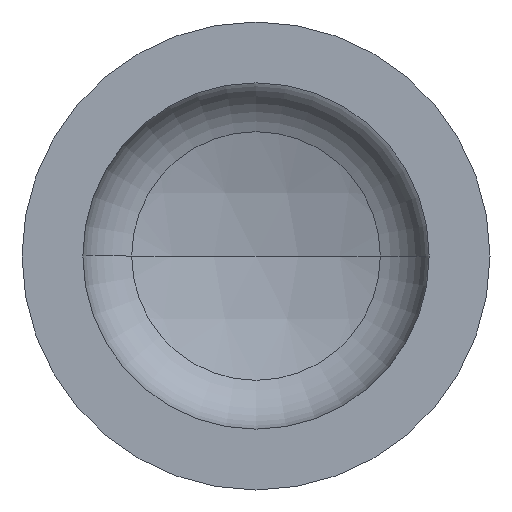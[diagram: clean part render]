
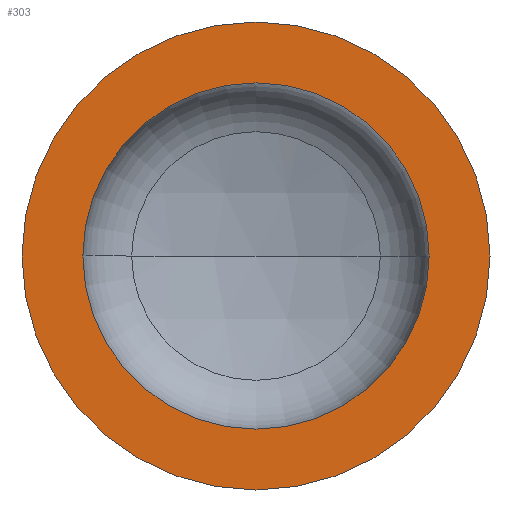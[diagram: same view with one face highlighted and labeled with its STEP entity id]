
A CAD part, front view. The second image highlights one B-rep face of the part: STEP entity #303.
In plain terms, the highlighted planar face has unit normal (0, -1, 0).
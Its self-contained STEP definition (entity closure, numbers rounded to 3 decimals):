
#5 = AXIS2_PLACEMENT_3D ( 'NONE', #128, #150, #157 ) ;
#9 = ORIENTED_EDGE ( 'NONE', *, *, #118, .F. ) ;
#13 = EDGE_LOOP ( 'NONE', ( #28, #122 ) ) ;
#28 = ORIENTED_EDGE ( 'NONE', *, *, #320, .T. ) ;
#33 = AXIS2_PLACEMENT_3D ( 'NONE', #373, #393, #390 ) ;
#34 = AXIS2_PLACEMENT_3D ( 'NONE', #210, #235, #183 ) ;
#35 = VERTEX_POINT ( 'NONE', #281 ) ;
#43 = VERTEX_POINT ( 'NONE', #250 ) ;
#45 = EDGE_LOOP ( 'NONE', ( #9, #76 ) ) ;
#55 = VERTEX_POINT ( 'NONE', #289 ) ;
#76 = ORIENTED_EDGE ( 'NONE', *, *, #354, .F. ) ;
#86 = AXIS2_PLACEMENT_3D ( 'NONE', #297, #315, #312 ) ;
#88 = AXIS2_PLACEMENT_3D ( 'NONE', #139, #365, #366 ) ;
#116 = EDGE_CURVE ( 'NONE', #338, #35, #141, .T. ) ;
#118 = EDGE_CURVE ( 'NONE', #43, #55, #125, .T. ) ;
#122 = ORIENTED_EDGE ( 'NONE', *, *, #116, .T. ) ;
#125 = CIRCLE ( 'NONE', #86, 296. ) ;
#128 = CARTESIAN_POINT ( 'NONE',  ( 0., 0., 0. ) ) ;
#139 = CARTESIAN_POINT ( 'NONE',  ( 0., 0., 0. ) ) ;
#141 = CIRCLE ( 'NONE', #88, 400. ) ;
#150 = DIRECTION ( 'NONE',  ( 0., -1., 0. ) ) ;
#157 = DIRECTION ( 'NONE',  ( 1., 0., 0. ) ) ;
#173 = CARTESIAN_POINT ( 'NONE',  ( -400., 0., 0. ) ) ;
#183 = DIRECTION ( 'NONE',  ( -1., 0., 0. ) ) ;
#210 = CARTESIAN_POINT ( 'NONE',  ( -400., 0., 0. ) ) ;
#235 = DIRECTION ( 'NONE',  ( 0., 1., 0. ) ) ;
#250 = CARTESIAN_POINT ( 'NONE',  ( 296., 0., 0. ) ) ;
#274 = PLANE ( 'NONE',  #34 ) ;
#278 = CIRCLE ( 'NONE', #33, 400. ) ;
#281 = CARTESIAN_POINT ( 'NONE',  ( 400., 0., 0. ) ) ;
#289 = CARTESIAN_POINT ( 'NONE',  ( -296., 0., 0. ) ) ;
#297 = CARTESIAN_POINT ( 'NONE',  ( 0., 0., 0. ) ) ;
#303 = ADVANCED_FACE ( 'NONE', ( #355, #409 ), #274, .F. ) ;
#312 = DIRECTION ( 'NONE',  ( 1., 0., 0. ) ) ;
#315 = DIRECTION ( 'NONE',  ( 0., -1., 0. ) ) ;
#320 = EDGE_CURVE ( 'NONE', #35, #338, #278, .T. ) ;
#331 = CIRCLE ( 'NONE', #5, 296. ) ;
#338 = VERTEX_POINT ( 'NONE', #173 ) ;
#354 = EDGE_CURVE ( 'NONE', #55, #43, #331, .T. ) ;
#355 = FACE_BOUND ( 'NONE', #45, .T. ) ;
#365 = DIRECTION ( 'NONE',  ( 0., -1., 0. ) ) ;
#366 = DIRECTION ( 'NONE',  ( 1., 0., 0. ) ) ;
#373 = CARTESIAN_POINT ( 'NONE',  ( 0., 0., 0. ) ) ;
#390 = DIRECTION ( 'NONE',  ( 1., 0., 0. ) ) ;
#393 = DIRECTION ( 'NONE',  ( 0., -1., 0. ) ) ;
#409 = FACE_OUTER_BOUND ( 'NONE', #13, .T. ) ;
